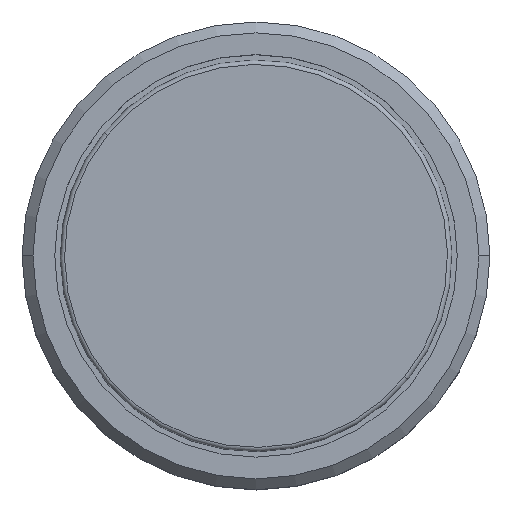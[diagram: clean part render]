
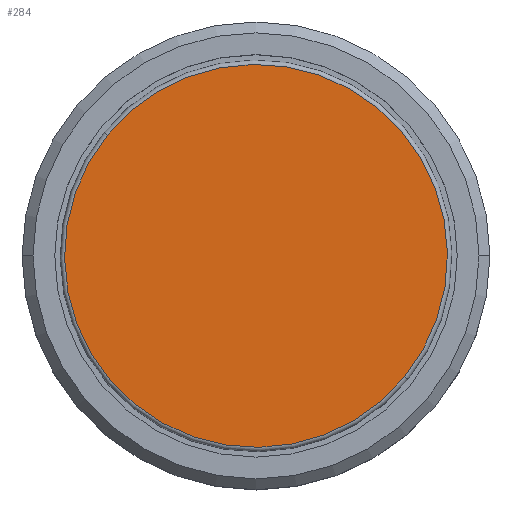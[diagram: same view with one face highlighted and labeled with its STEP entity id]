
A CAD part, top view. The second image highlights one B-rep face of the part: STEP entity #284.
In plain terms, the highlighted planar face has unit normal (0, 0, 1).
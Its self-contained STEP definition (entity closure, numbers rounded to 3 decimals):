
#46 = EDGE_CURVE ( 'NONE', #72, #152, #317, .T. ) ;
#72 = VERTEX_POINT ( 'NONE', #345 ) ;
#75 = CIRCLE ( 'NONE', #249, 8.8 ) ;
#88 = FACE_OUTER_BOUND ( 'NONE', #224, .T. ) ;
#136 = AXIS2_PLACEMENT_3D ( 'NONE', #223, #271, #521 ) ;
#142 = DIRECTION ( 'NONE',  ( 0., 0., 1. ) ) ;
#152 = VERTEX_POINT ( 'NONE', #245 ) ;
#173 = PLANE ( 'NONE',  #136 ) ;
#183 = EDGE_CURVE ( 'NONE', #152, #72, #75, .T. ) ;
#223 = CARTESIAN_POINT ( 'NONE',  ( 0., 0., 3. ) ) ;
#224 = EDGE_LOOP ( 'NONE', ( #238, #525 ) ) ;
#238 = ORIENTED_EDGE ( 'NONE', *, *, #183, .T. ) ;
#245 = CARTESIAN_POINT ( 'NONE',  ( 8.8, 0., 3. ) ) ;
#249 = AXIS2_PLACEMENT_3D ( 'NONE', #415, #142, #368 ) ;
#260 = DIRECTION ( 'NONE',  ( 1., 0., 0. ) ) ;
#262 = DIRECTION ( 'NONE',  ( 0., 0., 1. ) ) ;
#271 = DIRECTION ( 'NONE',  ( 0., 0., 1. ) ) ;
#284 = ADVANCED_FACE ( 'NONE', ( #88 ), #173, .T. ) ;
#317 = CIRCLE ( 'NONE', #534, 8.8 ) ;
#345 = CARTESIAN_POINT ( 'NONE',  ( -8.8, 0., 3. ) ) ;
#368 = DIRECTION ( 'NONE',  ( 1., 0., 0. ) ) ;
#415 = CARTESIAN_POINT ( 'NONE',  ( 0., 0., 3. ) ) ;
#424 = CARTESIAN_POINT ( 'NONE',  ( 0., 0., 3. ) ) ;
#521 = DIRECTION ( 'NONE',  ( 1., 0., 0. ) ) ;
#525 = ORIENTED_EDGE ( 'NONE', *, *, #46, .T. ) ;
#534 = AXIS2_PLACEMENT_3D ( 'NONE', #424, #262, #260 ) ;
